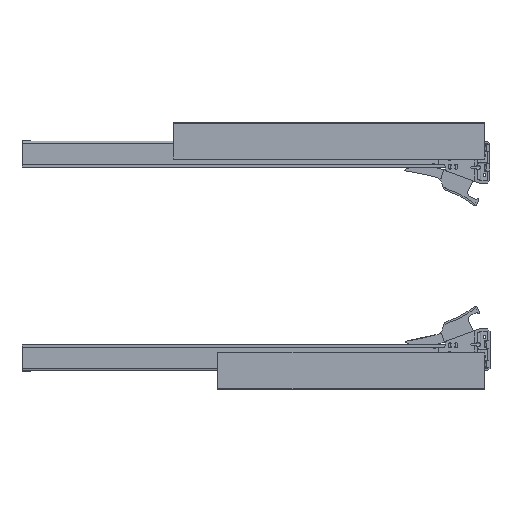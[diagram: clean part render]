
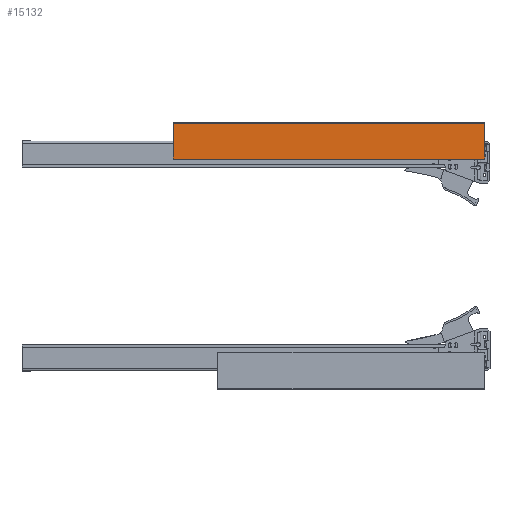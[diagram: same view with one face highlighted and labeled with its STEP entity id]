
A CAD part, front view. The second image highlights one B-rep face of the part: STEP entity #15132.
In plain terms, the highlighted planar face has unit normal (0, -1, 0).
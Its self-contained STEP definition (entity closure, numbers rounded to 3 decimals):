
#395=PLANE('',#16054);
#968=FACE_OUTER_BOUND('',#1826,.T.);
#1826=EDGE_LOOP('',(#10667,#10668,#10669,#10670));
#2856=LINE('',#22179,#4502);
#2858=LINE('',#22185,#4504);
#2859=LINE('',#22187,#4505);
#2860=LINE('',#22188,#4506);
#4502=VECTOR('',#17768,10.);
#4504=VECTOR('',#17774,10.);
#4505=VECTOR('',#17775,10.);
#4506=VECTOR('',#17776,10.);
#6648=VERTEX_POINT('',#22175);
#6650=VERTEX_POINT('',#22178);
#6652=VERTEX_POINT('',#22184);
#6653=VERTEX_POINT('',#22186);
#8214=EDGE_CURVE('',#6650,#6648,#2856,.T.);
#8217=EDGE_CURVE('',#6648,#6652,#2858,.T.);
#8218=EDGE_CURVE('',#6653,#6652,#2859,.T.);
#8219=EDGE_CURVE('',#6650,#6653,#2860,.T.);
#10667=ORIENTED_EDGE('',*,*,#8214,.T.);
#10668=ORIENTED_EDGE('',*,*,#8217,.T.);
#10669=ORIENTED_EDGE('',*,*,#8218,.F.);
#10670=ORIENTED_EDGE('',*,*,#8219,.F.);
#15132=ADVANCED_FACE('',(#968),#395,.F.);
#16054=AXIS2_PLACEMENT_3D('',#22183,#17772,#17773);
#17768=DIRECTION('',(-1.,0.,0.));
#17772=DIRECTION('center_axis',(0.,1.,0.));
#17773=DIRECTION('ref_axis',(0.,0.,1.));
#17774=DIRECTION('',(0.,0.,-1.));
#17775=DIRECTION('',(-1.,0.,0.));
#17776=DIRECTION('',(0.,0.,-1.));
#22175=CARTESIAN_POINT('',(-67.839,-146.183,81.));
#22178=CARTESIAN_POINT('',(282.161,-146.183,81.));
#22179=CARTESIAN_POINT('',(194.661,-146.183,81.));
#22183=CARTESIAN_POINT('Origin',(282.161,-146.183,82.));
#22184=CARTESIAN_POINT('',(-67.839,-146.183,41.));
#22185=CARTESIAN_POINT('',(-67.839,-146.183,82.));
#22186=CARTESIAN_POINT('',(282.161,-146.183,41.));
#22187=CARTESIAN_POINT('',(-67.839,-146.183,41.));
#22188=CARTESIAN_POINT('',(282.161,-146.183,82.));
